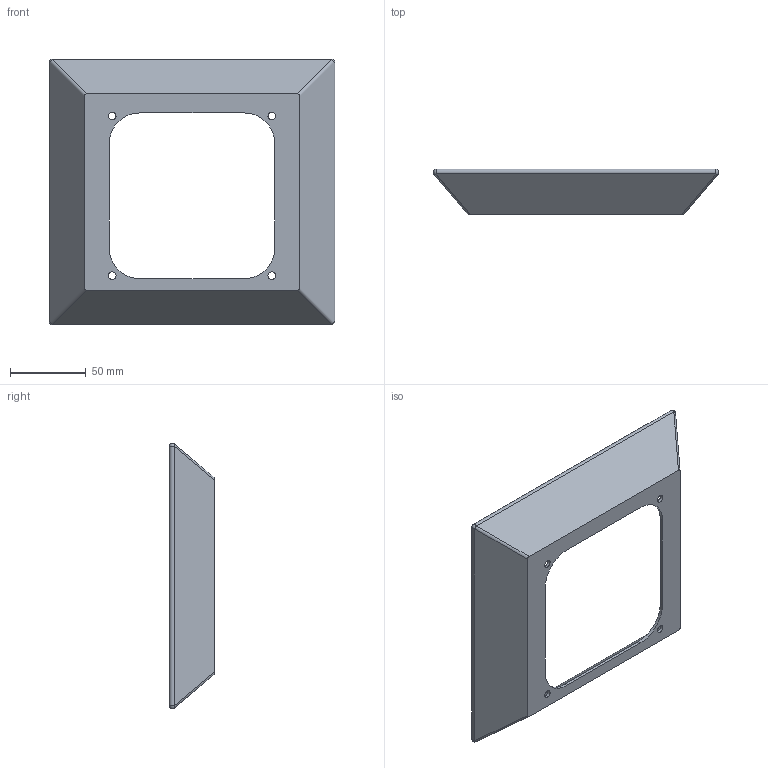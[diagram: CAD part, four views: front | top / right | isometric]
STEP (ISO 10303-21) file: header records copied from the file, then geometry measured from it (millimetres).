
FILE_DESCRIPTION(('FreeCAD Model'),'2;1');
FILE_NAME( '2021-01-24T16:38:37',('Author'),(''), 'Open CASCADE STEP processor 7.3','FreeCAD','Unknown');
FILE_SCHEMA(('AUTOMOTIVE_DESIGN { 1 0 10303 214 1 1 1 1 }'));
Length unit declared in the file: millimetre
Products named in the file (1): diffusor
Bounding box: 187.77 x 30 x 174.77 mm (x, y, z)
Volume: 125258.8 mm3; surface area: 60239.1 mm2
Topology: 1 solids, 1 shells, 55 faces, 136 edges, 80 vertices
Faces by surface type: cylinder 28, plane 15, sphere 8, bspline 4
Full cylindrical faces by diameter (mm): 5 x4
Entity records: 3966 total; most frequent: CARTESIAN_POINT 1274, DIRECTION 513, ORIENTED_EDGE 264, PCURVE 264, DEFINITIONAL_REPRESENTATION 264, LINE 254, VECTOR 254, EDGE_CURVE 132
